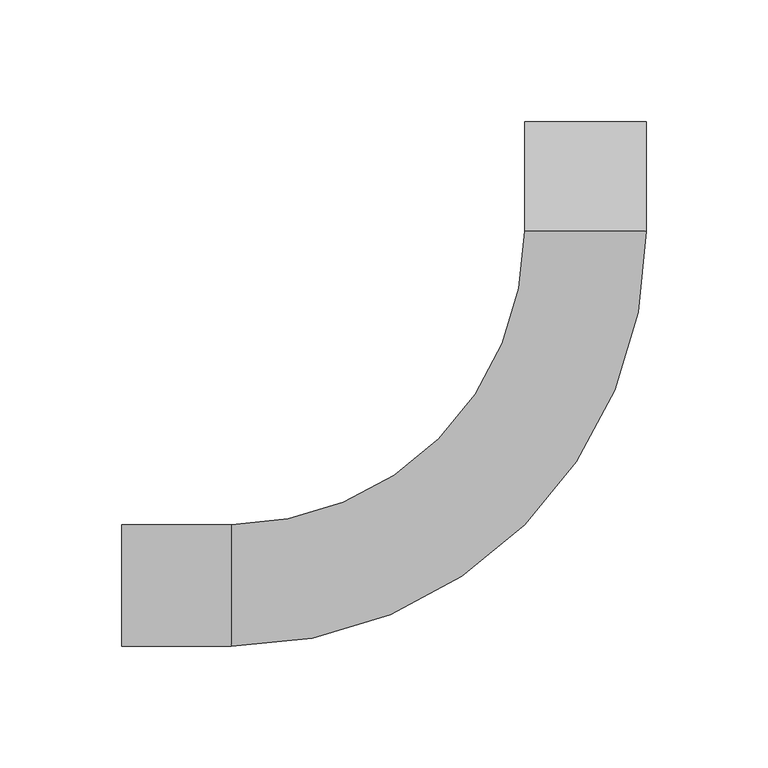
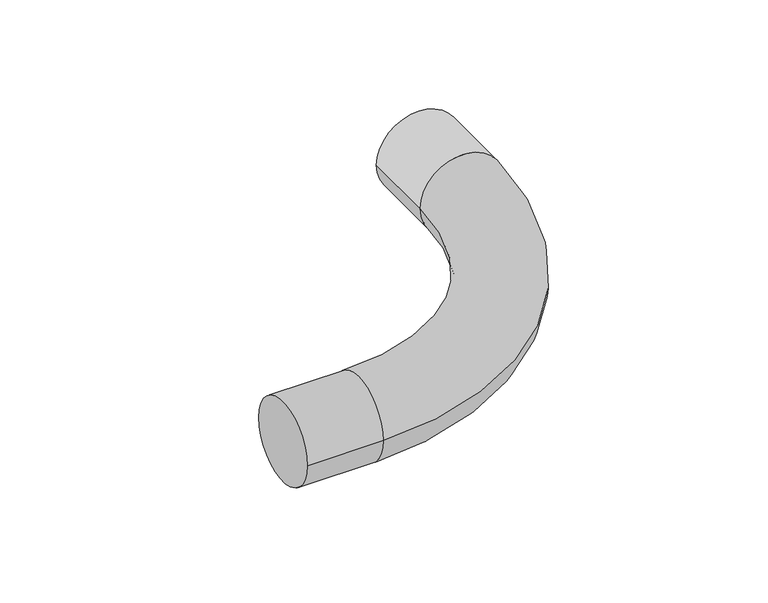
"""IFC4 building model written with IfcOpenShell, lengths in millimetres: cable carrier fitting geometry, Отвод Трубы гладкие жесткие ПВХ : Отвод Трубы гладкие жесткие ПВХ."""

from ifc_helpers import new_model, si_unit, point, frame, origin, place, context, project, spatial, circle_curve, ellipse_curve, trimmed, source, transform, mapped, element, save
from ifc_brep_helpers import plane_surface, cylinder_surface, revolved_surface, advanced_brep


def cable_carrier_fitting_d79e1a75(model_context):
    return source(origin(), model_context, "Body", "AdvancedBrep", [
        advanced_brep(
        [(-190.4746, -24.9936, 0.0), (-190.4746, 24.9936, 0.0), (-145.4912, -24.9936, 0.0), (-145.4912, 24.9936, 0.0), (-24.9936, 145.4912, 0.0), (24.9936, 145.4912, 0.0), (24.9936, 190.4746, 0.0), (-24.9936, 190.4746, 0.0)],
        [
            (0, 1, circle_curve(frame((-190.4746, 0.0, 0.0), z_axis=(-1.0, 0.0, 0.0), x_axis=(0.0, 1.0, 0.0)), 24.9936)),
            (1, 0, circle_curve(frame((-190.4746, 0.0, 0.0), z_axis=(-1.0, 0.0, 0.0), x_axis=(0.0, 1.0, 0.0)), 24.9936)),
            (0, 2),
            (2, 3, circle_curve(frame((-145.4912, 0.0, 0.0), z_axis=(-1.0, 0.0, 0.0), x_axis=(0.0, 1.0, 0.0)), 24.9936)),
            (3, 1),
            (3, 2, circle_curve(frame((-145.4912, 0.0, 0.0), z_axis=(-1.0, 0.0, 0.0), x_axis=(0.0, 1.0, 0.0)), 24.9936)),
            (4, 3, circle_curve(frame((-145.4912, 145.4912, 0.0), z_axis=(0.0, 0.0, -1.0), x_axis=(0.0, -1.0, 0.0)), 120.4976)),
            (2, 5, circle_curve(frame((-145.4912, 145.4912, 0.0), z_axis=(0.0, 0.0, 1.0), x_axis=(0.0, -1.0, 0.0)), 170.4848)),
            (5, 4, circle_curve(frame((0.0, 145.4912, 0.0), z_axis=(0.0, -1.0, 0.0), x_axis=(-1.0, 0.0, 0.0)), 24.9936)),
            (4, 5, circle_curve(frame((0.0, 145.4912, 0.0), z_axis=(0.0, -1.0, 0.0), x_axis=(-1.0, 0.0, 0.0)), 24.9936)),
            (6, 7, circle_curve(frame((0.0, 190.4746, 0.0), z_axis=(0.0, 1.0, 0.0), x_axis=(-1.0, 0.0, 0.0)), 24.9936)),
            (7, 6, circle_curve(frame((0.0, 190.4746, 0.0), z_axis=(0.0, 1.0, 0.0), x_axis=(-1.0, 0.0, 0.0)), 24.9936)),
            (5, 6),
            (7, 4),
        ],
        [
            plane_surface(frame((-190.4746, 0.0, 0.0), z_axis=(-1.0, 0.0, 0.0), x_axis=(0.0, 0.0, 1.0))),
            cylinder_surface(frame((-190.4746, 0.0, 0.0), z_axis=(-1.0, 0.0, 0.0), x_axis=(0.0, 1.0, 0.0)), 24.9936),
            revolved_surface(trimmed(ellipse_curve(frame((-145.4912, 0.0, 0.0), z_axis=(-1.0, 0.0, 0.0), x_axis=(0.0, 1.0, 0.0)), 24.9936, 24.9936), [point((-145.4912, -24.9936, 0.0))], [point((-145.4912, 24.9936, 0.0))], True, "CARTESIAN"), (-145.4912, 145.4912, 0.0), (0.0, 0.0, 1.0)),
            revolved_surface(trimmed(ellipse_curve(frame((-145.4912, 0.0, 0.0), z_axis=(-1.0, 0.0, 0.0), x_axis=(0.0, 1.0, 0.0)), 24.9936, 24.9936), [point((-145.4912, 24.9936, 0.0))], [point((-145.4912, -24.9936, 0.0))], True, "CARTESIAN"), (-145.4912, 145.4912, 0.0), (0.0, 0.0, 1.0)),
            plane_surface(frame((0.0, 190.4746, 0.0), z_axis=(0.0, 1.0, 0.0), x_axis=(0.0, 0.0, 1.0))),
            cylinder_surface(frame((0.0, 145.4912, 0.0), z_axis=(0.0, -1.0, 0.0), x_axis=(-1.0, 0.0, 0.0)), 24.9936),
        ],
        [
            (0, [[1, 2]]),
            (1, [[-1, 3, 4, 5]]),
            (1, [[-2, -5, 6, -3]]),
            (2, [[7, -4, 8, 9]]),
            (3, [[-8, -6, -7, 10]]),
            (4, [[11, 12]]),
            (5, [[-9, 13, -12, 14]]),
            (5, [[-10, -14, -11, -13]]),
        ],
    ),
    ])


if __name__ == "__main__":
    model = new_model("IFC4")
    model_context = context("Model", 3, world=origin())
    ifc_project = project(units=[si_unit("LENGTHUNIT", "METRE", prefix="MILLI")], contexts=[model_context])
    site = spatial("IfcSite", under=ifc_project)
    building = spatial("IfcBuilding", under=site)
    placement = place(None, origin())
    cable_carrier_fitting_shape = cable_carrier_fitting_d79e1a75(model_context)
    element("IfcCableCarrierFitting", 1, ObjectType="Отвод Трубы гладкие жесткие ПВХ : Отвод Трубы гладкие жесткие ПВХ", at=placement, inside=building, context=model_context, shape_type="MappedRepresentation", body=[
        mapped(cable_carrier_fitting_shape, transform((0.0, 0.0, 0.0), x_axis=(1.0, 0.0, 0.0), y_axis=(0.0, 1.0, 0.0), z_axis=(0.0, 0.0, 1.0))),
    ])
    save(model, "model.ifc")
